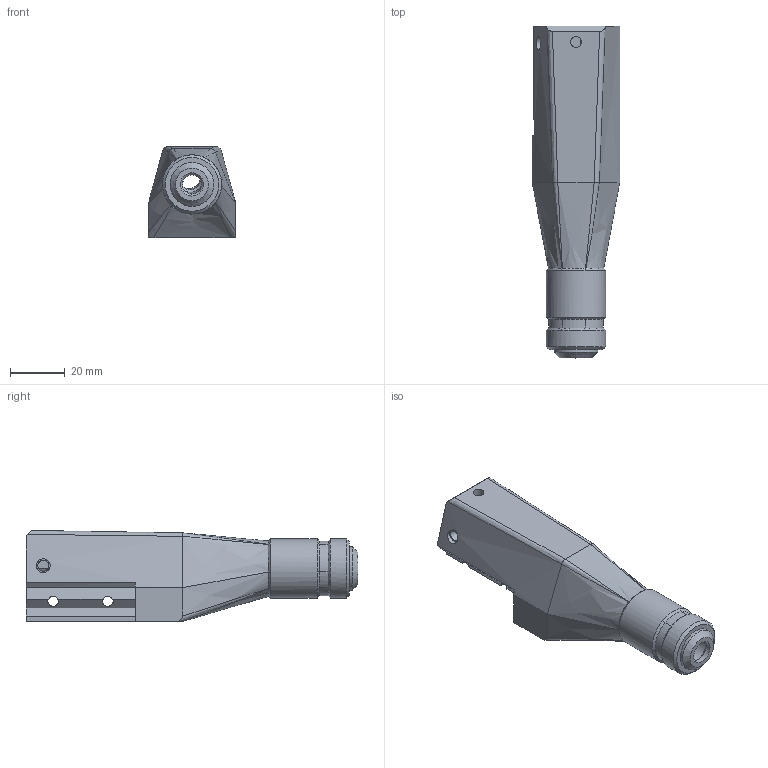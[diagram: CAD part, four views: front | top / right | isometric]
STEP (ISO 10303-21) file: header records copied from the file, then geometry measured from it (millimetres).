
FILE_DESCRIPTION(('HOOPS Exchange Step'),'2;1');
FILE_NAME('/private/var/mobile/Containers/Data/Application/6645FEE8-917D-41E1-B4AE-5ED5900E217E/tmp/export/temp_export','2026-06-16T20:41:30+19:00',('mobile'),('Shapr3D Limited'),'HOOPS Exchange 2026.3','Shapr3D','Authorized');
FILE_SCHEMA( ('AP242_MANAGED_MODEL_BASED_3D_ENGINEERING_MIM_LF {1 0 10303 442 1 1 4}') );
Length unit declared in the file: millimetre
Products named in the file (2): Laser; root
Assembly tree (1 placements, depth 2):
  root
    Laser
Bounding box: 31.93 x 121.3 x 33.27 mm (x, y, z)
Volume: 54226 mm3; surface area: 23415.6 mm2
Topology: 1 solids, 1 shells, 120 faces, 320 edges, 203 vertices
Faces by surface type: plane 47, bspline 46, cylinder 19, cone 7, torus 1
Full cylindrical faces by diameter (mm): 4 x4, 5 x1, 7 x2, 8.485 x1, 8.8 x2, 11 x1, 12.8 x1, 16 x1, 21.633 x2
Entity records: 7467 total; most frequent: CARTESIAN_POINT 4715, ORIENTED_EDGE 632, DIRECTION 445, EDGE_CURVE 316, VERTEX_POINT 203, AXIS2_PLACEMENT_3D 168, EDGE_LOOP 135, FACE_BOUND 135
